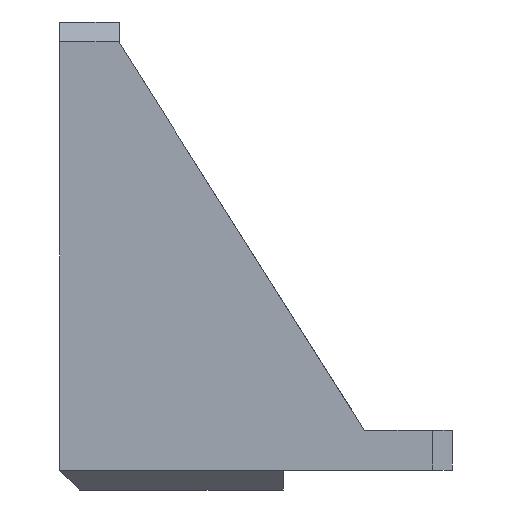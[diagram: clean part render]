
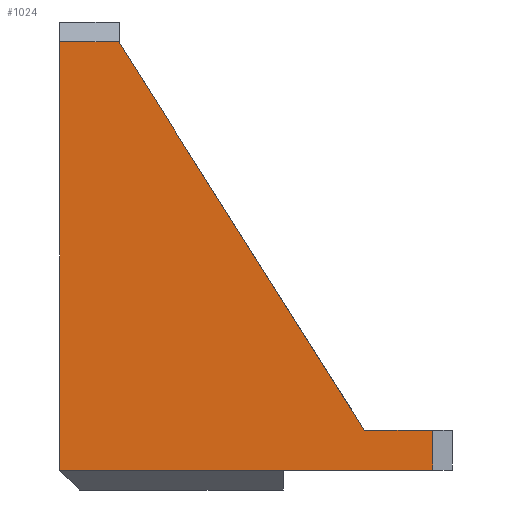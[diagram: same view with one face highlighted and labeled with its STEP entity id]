
A CAD part, front view. The second image highlights one B-rep face of the part: STEP entity #1024.
In plain terms, the highlighted planar face has unit normal (0, -1, 0).
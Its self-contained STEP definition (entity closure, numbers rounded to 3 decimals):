
#48 = VERTEX_POINT('',#49);
#49 = CARTESIAN_POINT('',(41.503,56.329,4.));
#55 = EDGE_CURVE('',#48,#56,#58,.T.);
#56 = VERTEX_POINT('',#57);
#57 = CARTESIAN_POINT('',(41.503,56.329,
    47.047));
#58 = LINE('',#59,#60);
#59 = CARTESIAN_POINT('',(41.503,56.329,4.));
#60 = VECTOR('',#61,1.);
#61 = DIRECTION('',(0.,0.,1.));
#981 = VERTEX_POINT('',#982);
#982 = CARTESIAN_POINT('',(47.503,56.329,
    47.047));
#990 = EDGE_CURVE('',#56,#981,#991,.T.);
#991 = LINE('',#992,#993);
#992 = CARTESIAN_POINT('',(41.503,56.329,
    47.047));
#993 = VECTOR('',#994,1.);
#994 = DIRECTION('',(1.,0.,0.));
#1024 = ADVANCED_FACE('',(#1025),#1067,.T.);
#1025 = FACE_BOUND('',#1026,.T.);
#1026 = EDGE_LOOP('',(#1027,#1037,#1045,#1053,#1059,#1060,#1061));
#1027 = ORIENTED_EDGE('',*,*,#1028,.F.);
#1028 = EDGE_CURVE('',#1029,#1031,#1033,.T.);
#1029 = VERTEX_POINT('',#1030);
#1030 = CARTESIAN_POINT('',(78.992,56.329,8.));
#1031 = VERTEX_POINT('',#1032);
#1032 = CARTESIAN_POINT('',(78.992,56.329,4.));
#1033 = LINE('',#1034,#1035);
#1034 = CARTESIAN_POINT('',(78.992,56.329,8.));
#1035 = VECTOR('',#1036,1.);
#1036 = DIRECTION('',(0.,0.,-1.));
#1037 = ORIENTED_EDGE('',*,*,#1038,.F.);
#1038 = EDGE_CURVE('',#1039,#1029,#1041,.T.);
#1039 = VERTEX_POINT('',#1040);
#1040 = CARTESIAN_POINT('',(72.158,56.329,8.));
#1041 = LINE('',#1042,#1043);
#1042 = CARTESIAN_POINT('',(72.158,56.329,8.));
#1043 = VECTOR('',#1044,1.);
#1044 = DIRECTION('',(1.,0.,0.));
#1045 = ORIENTED_EDGE('',*,*,#1046,.T.);
#1046 = EDGE_CURVE('',#1039,#1047,#1049,.T.);
#1047 = VERTEX_POINT('',#1048);
#1048 = CARTESIAN_POINT('',(47.503,56.329,
    46.945));
#1049 = LINE('',#1050,#1051);
#1050 = CARTESIAN_POINT('',(72.158,56.329,8.));
#1051 = VECTOR('',#1052,1.);
#1052 = DIRECTION('',(-0.535,0.,0.845));
#1053 = ORIENTED_EDGE('',*,*,#1054,.F.);
#1054 = EDGE_CURVE('',#981,#1047,#1055,.T.);
#1055 = LINE('',#1056,#1057);
#1056 = CARTESIAN_POINT('',(47.503,56.329,
    47.047));
#1057 = VECTOR('',#1058,1.);
#1058 = DIRECTION('',(0.,0.,-1.));
#1059 = ORIENTED_EDGE('',*,*,#990,.F.);
#1060 = ORIENTED_EDGE('',*,*,#55,.F.);
#1061 = ORIENTED_EDGE('',*,*,#1062,.F.);
#1062 = EDGE_CURVE('',#1031,#48,#1063,.T.);
#1063 = LINE('',#1064,#1065);
#1064 = CARTESIAN_POINT('',(63.992,56.329,4.));
#1065 = VECTOR('',#1066,1.);
#1066 = DIRECTION('',(-1.,0.,0.));
#1067 = PLANE('',#1068);
#1068 = AXIS2_PLACEMENT_3D('',#1069,#1070,#1071);
#1069 = CARTESIAN_POINT('',(55.078,56.329,
    20.065));
#1070 = DIRECTION('',(-0.,-1.,-0.));
#1071 = DIRECTION('',(0.,0.,-1.));
